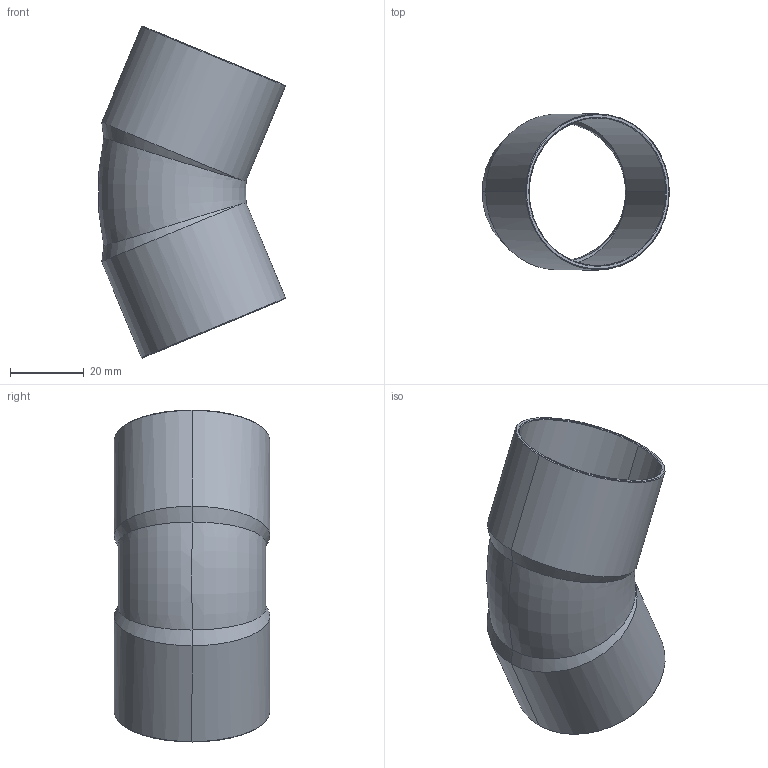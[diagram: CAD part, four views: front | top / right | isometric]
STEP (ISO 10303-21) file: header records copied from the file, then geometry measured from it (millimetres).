
FILE_DESCRIPTION((''),'2;1');
FILE_NAME('P:\Bouwmaten\z-maattekeningen 3D\5000\5040\1504140.stp','2005-10-12T15:34:21',('Kris'),(''),'Autodesk Inventor 8','Autodesk Inventor 8','');
FILE_SCHEMA(('AUTOMOTIVE_DESIGN { 1 0 10303 214 1 1 1 1 }'));
Length unit declared in the file: millimetre
Products named in the file (1): 1504140
Bounding box: 50.59 x 42.2 x 89.91 mm (x, y, z)
Volume: 10973.6 mm3; surface area: 20199.9 mm2
Topology: 1 solids, 1 shells, 34 faces, 68 edges, 36 vertices
Faces by surface type: cone 14, bspline 11, torus 4, cylinder 4, plane 1
Entity records: 1309 total; most frequent: CARTESIAN_POINT 622, DIRECTION 136, ORIENTED_EDGE 136, EDGE_CURVE 68, AXIS2_PLACEMENT_3D 56, VERTEX_POINT 36, EDGE_LOOP 36, FACE_OUTER_BOUND 34
